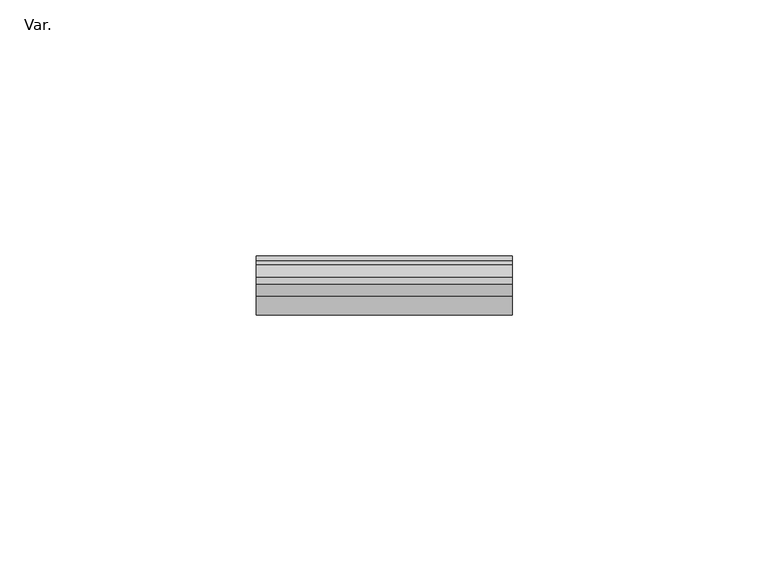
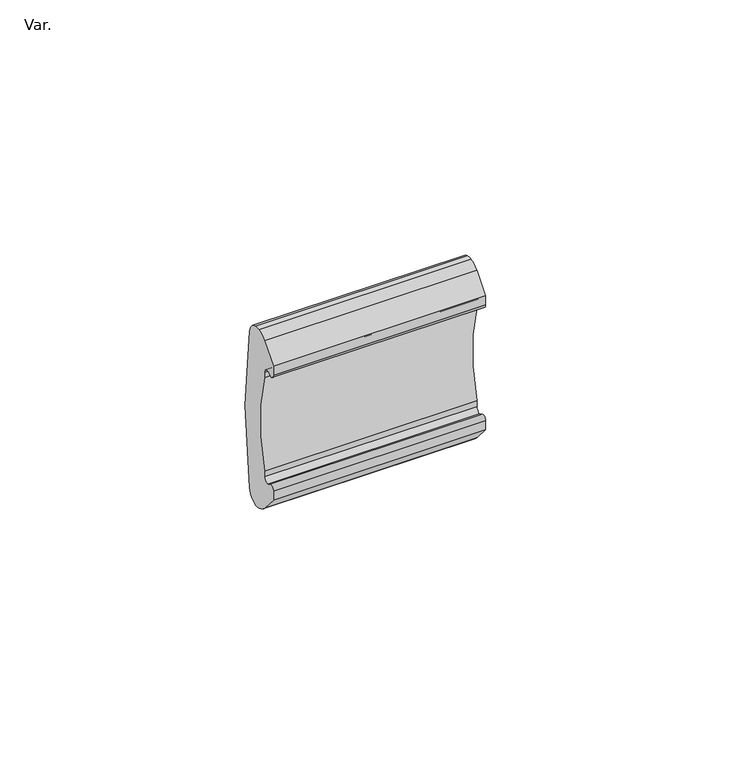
"""IFC4 building model written with IfcOpenShell, lengths in millimetres: pipe fitting geometry, AmancoWavin_ConexõesdeTubos_PBAZNãoUsarTravadoColardetomada : Var.."""

from ifc_helpers import new_model, si_unit, point, frame, frame_2d, origin, place, context, project, spatial, polyline, circle_curve, trimmed, segment, composite_curve, outline, extrude, source, transform, mapped, element, save


def var_3c9d875d(model_context):
    return source(origin(), model_context, "Body", "SweptSolid", [
        extrude(outline(composite_curve([segment(polyline([(0.0, 14.4312711), (0.0, 16.6806516), (3.598839, 20.8206422)]), True, "CONTINUOUS"), segment(trimmed(circle_curve(frame_2d((6.8959325, 17.9545225)), 4.3686918), [point((3.598839, 20.8206422))], [point((5.9131907, 22.211245))], False, "CARTESIAN"), True, "CONTINUOUS"), segment(trimmed(circle_curve(frame_2d((6.6131907, 19.1792119)), 3.111788), [point((5.9131907, 22.211245))], [point((7.3131907, 22.211245))], False, "CARTESIAN"), True, "CONTINUOUS"), segment(trimmed(circle_curve(frame_2d((6.6131907, 19.1792119)), 3.111788), [point((7.3131907, 22.211245))], [point((9.7113816, 19.4697936))], False, "CARTESIAN"), True, "CONTINUOUS"), segment(polyline([(9.7113816, 19.4697936), (10.5156487, 10.8946748)]), True, "CONTINUOUS"), segment(trimmed(circle_curve(frame_2d((-47.0531115, 0.0)), 58.5905802), [point((10.5156487, 10.8946748))], [point((10.5156487, -10.8946748))], False, "CARTESIAN"), True, "CONTINUOUS"), segment(polyline([(10.5156487, -10.8946748), (9.7113816, -19.4697936)]), True, "CONTINUOUS"), segment(trimmed(circle_curve(frame_2d((6.6131907, -19.1792119)), 3.111788), [point((9.7113816, -19.4697936))], [point((7.9609068, -21.9840089))], False, "CARTESIAN"), True, "CONTINUOUS"), segment(trimmed(circle_curve(frame_2d((6.6131907, -19.1792119)), 3.111788), [point((7.9609068, -21.9840089))], [point((5.9131907, -22.211245))], False, "CARTESIAN"), True, "CONTINUOUS"), segment(trimmed(circle_curve(frame_2d((6.8959325, -17.9545225)), 4.3686918), [point((5.9131907, -22.211245))], [point((3.598839, -20.8206422))], False, "CARTESIAN"), True, "CONTINUOUS"), segment(polyline([(3.598839, -20.8206422), (0.0, -16.6806516), (0.0, -14.4312711)]), True, "CONTINUOUS"), segment(trimmed(circle_curve(frame_2d((0.9093008, -14.3767926)), 0.9109313), [point((0.0, -14.4312711))], [point((1.356877, -13.5834002))], False, "CARTESIAN"), True, "CONTINUOUS"), segment(trimmed(circle_curve(frame_2d((2.5006222, -12.6497219)), 1.4764512), [point((1.356877, -13.5834002))], [point((2.4417755, -14.125))], True, "CARTESIAN"), True, "CONTINUOUS"), segment(trimmed(circle_curve(frame_2d((2.4417755, -13.025)), 1.1), [point((2.4417755, -14.125))], [point((3.5417755, -13.025))], True, "CARTESIAN"), True, "CONTINUOUS"), segment(polyline([(3.5417755, -13.025), (3.5417755, -11.6028657)]), True, "CONTINUOUS"), segment(trimmed(circle_curve(frame_2d((-32.4653185, 0.0)), 37.8303755), [point((3.5417755, -11.6028657))], [point((3.5417755, 11.6028657))], True, "CARTESIAN"), True, "CONTINUOUS"), segment(polyline([(3.5417755, 11.6028657), (3.5417755, 13.025)]), True, "CONTINUOUS"), segment(trimmed(circle_curve(frame_2d((2.4417755, 13.025)), 1.1), [point((3.5417755, 13.025))], [point((2.4417755, 14.125))], True, "CARTESIAN"), True, "CONTINUOUS"), segment(trimmed(circle_curve(frame_2d((2.5006222, 12.6497219)), 1.4764512), [point((2.4417755, 14.125))], [point((1.356877, 13.5834002))], True, "CARTESIAN"), True, "CONTINUOUS"), segment(trimmed(circle_curve(frame_2d((0.9093008, 14.3767926)), 0.9109313), [point((1.356877, 13.5834002))], [point((0.0, 14.4312711))], False, "CARTESIAN"), True, "CONTINUOUS")], self_intersect=False)), frame((-25.0, 0.0, 0.0), z_axis=(1.0, 0.0, 0.0), x_axis=(0.0, 1.0, 0.0)), (0.0, 0.0, 1.0), 50.0),
    ])


if __name__ == "__main__":
    model = new_model("IFC4")
    model_context = context("Model", 3, world=origin())
    ifc_project = project(units=[si_unit("LENGTHUNIT", "METRE", prefix="MILLI")], contexts=[model_context])
    site = spatial("IfcSite", under=ifc_project)
    building = spatial("IfcBuilding", under=site)
    placement = place(None, origin())
    var_shape = var_3c9d875d(model_context)
    element("IfcPipeFitting", 1, ObjectType="AmancoWavin_ConexõesdeTubos_PBAZNãoUsarTravadoColardetomada : Var.", at=placement, inside=building, context=model_context, shape_type="MappedRepresentation", body=[
        mapped(var_shape, transform((0.0, 0.0, 0.0), x_axis=(1.0, 0.0, 0.0), y_axis=(0.0, 1.0, 0.0), z_axis=(0.0, 0.0, 1.0))),
    ])
    save(model, "model.ifc")
